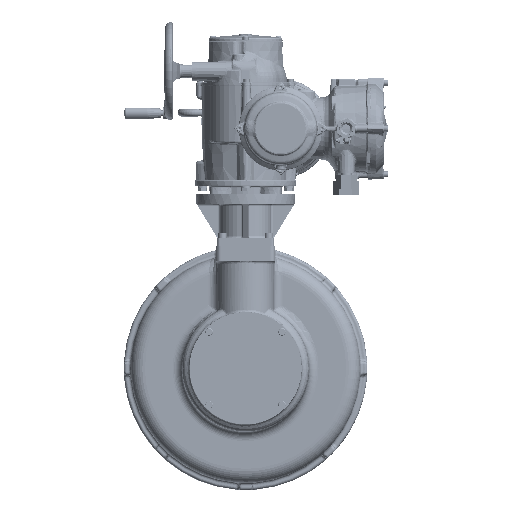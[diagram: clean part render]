
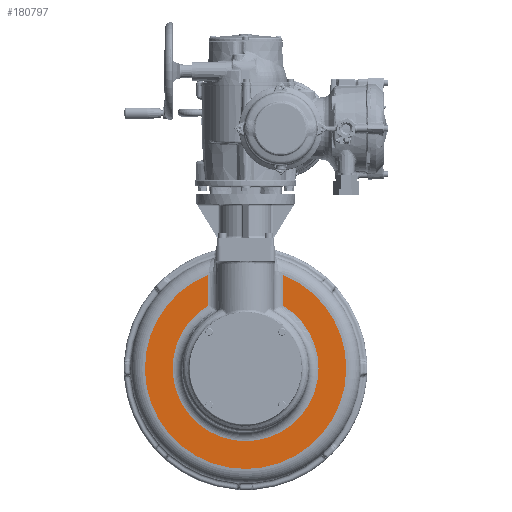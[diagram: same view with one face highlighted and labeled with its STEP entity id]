
A CAD part, left-side view. The second image highlights one B-rep face of the part: STEP entity #180797.
In plain terms, the highlighted planar face has unit normal (-1, 0, 0).
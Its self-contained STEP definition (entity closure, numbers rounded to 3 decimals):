
#17639=LINE('',#364002,#22854);
#17642=LINE('',#364010,#22857);
#22854=VECTOR('',#216937,1000.);
#22857=VECTOR('',#216948,1000.);
#50848=ORIENTED_EDGE('',*,*,#75538,.T.);
#50849=ORIENTED_EDGE('',*,*,#75536,.T.);
#50850=ORIENTED_EDGE('',*,*,#75546,.T.);
#50851=ORIENTED_EDGE('',*,*,#75541,.T.);
#75536=EDGE_CURVE('',#89309,#89311,#17639,.F.);
#75538=EDGE_CURVE('',#89284,#89309,#96538,.T.);
#75541=EDGE_CURVE('',#89314,#89284,#17642,.T.);
#75546=EDGE_CURVE('',#89311,#89314,#96541,.F.);
#89284=VERTEX_POINT('',#363163);
#89309=VERTEX_POINT('',#363796);
#89311=VERTEX_POINT('',#363993);
#89314=VERTEX_POINT('',#364011);
#96538=CIRCLE('',#191868,155.789);
#96541=CIRCLE('',#191873,215.);
#104585=EDGE_LOOP('',(#50848,#50849,#50850,#50851));
#113481=FACE_BOUND('',#104585,.T.);
#118673=PLANE('',#191876);
#180797=ADVANCED_FACE('',(#113481),#118673,.F.);
#191868=AXIS2_PLACEMENT_3D('',#364005,#216941,#216942);
#191873=AXIS2_PLACEMENT_3D('',#364200,#216953,#216954);
#191876=AXIS2_PLACEMENT_3D('',#364205,#216961,#216962);
#216937=DIRECTION('',(0.,0.,-1.));
#216941=DIRECTION('',(1.,0.,0.));
#216942=DIRECTION('',(0.,-1.,0.));
#216948=DIRECTION('',(0.,0.,-1.));
#216953=DIRECTION('',(1.,0.,0.));
#216954=DIRECTION('',(0.,-1.,0.));
#216961=DIRECTION('',(1.,0.,0.));
#216962=DIRECTION('',(0.,-1.,0.));
#363163=CARTESIAN_POINT('',(3.3,-64.26,-377.855));
#363796=CARTESIAN_POINT('',(3.3,94.26,-377.855));
#363993=CARTESIAN_POINT('',(3.3,94.26,-312.118));
#364002=CARTESIAN_POINT('',(3.3,94.26,-305.81));
#364005=CARTESIAN_POINT('',(3.3,15.,-511.975));
#364010=CARTESIAN_POINT('',(3.3,-64.26,-389.891));
#364011=CARTESIAN_POINT('',(3.3,-64.26,-312.118));
#364200=CARTESIAN_POINT('',(3.3,15.,-511.975));
#364205=CARTESIAN_POINT('',(3.3,15.,-511.975));
